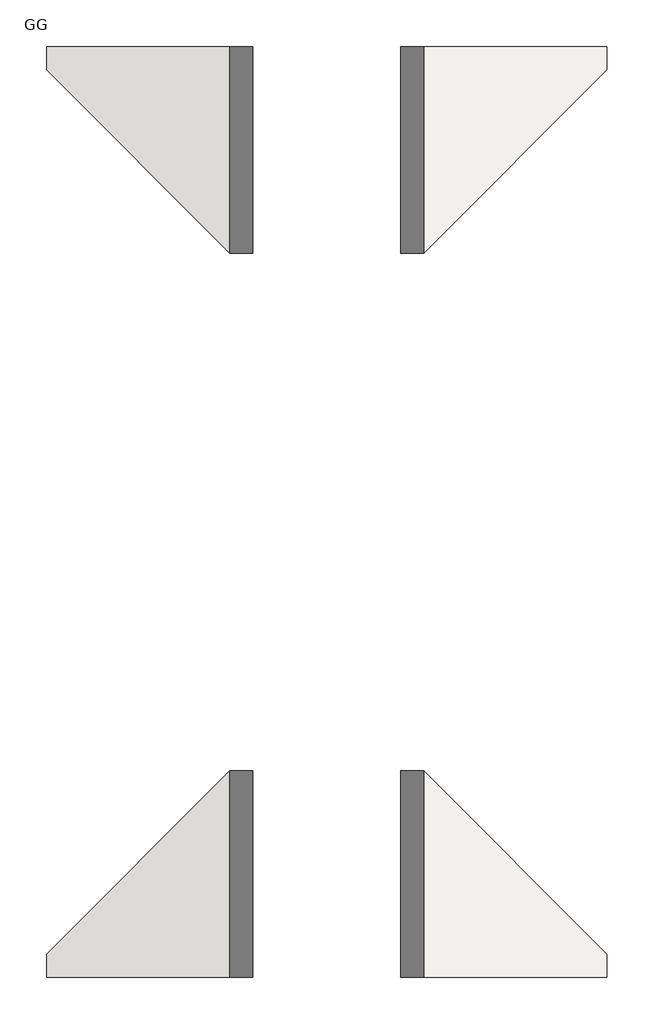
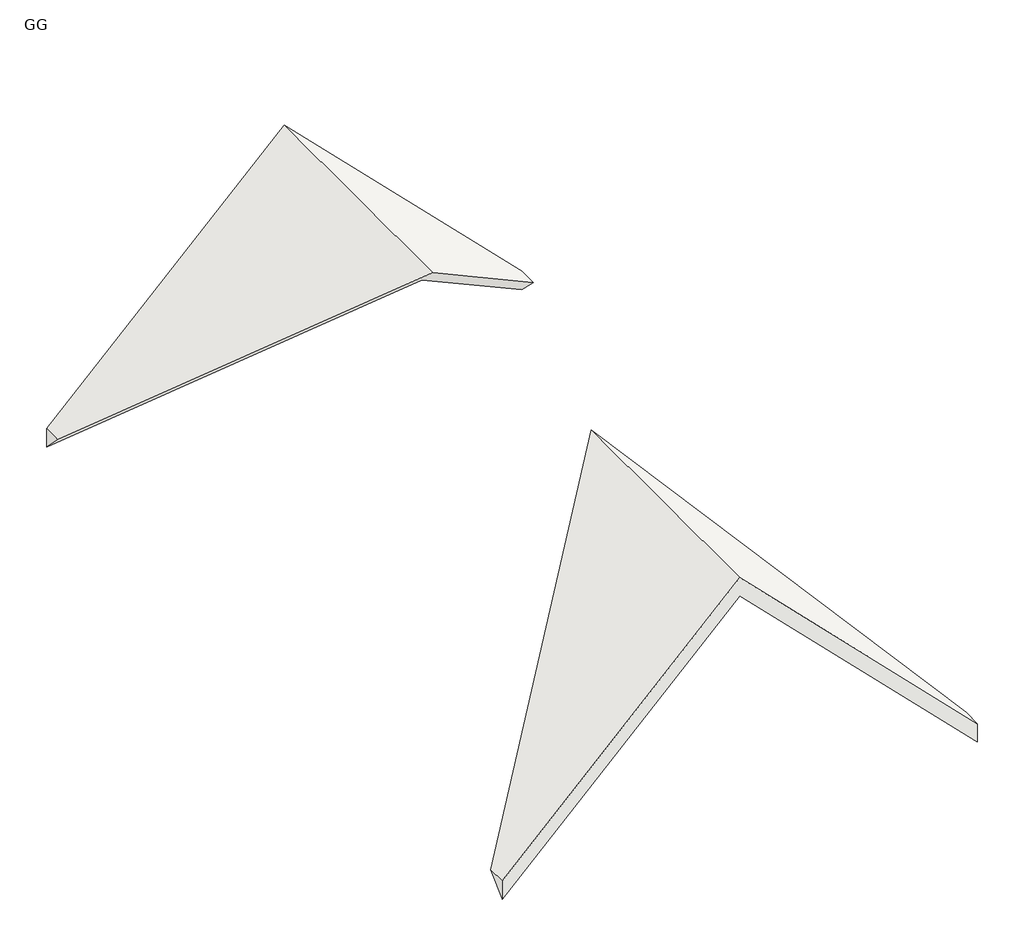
# One storey: 2 roofs.
"""IFC4 building model written with IfcOpenShell, lengths in millimetres."""

from ifc_helpers import new_model, si_unit, origin, place, context, project, spatial, faceted_brep, element, save

model = new_model("IFC4")

# Units and contexts
model_context = context("Model", 3, world=origin())
ifc_project = project(units=[si_unit("LENGTHUNIT", "METRE", prefix="MILLI")], contexts=[model_context])

# Site, building, storey
site = spatial("IfcSite", under=ifc_project)
building = spatial("IfcBuilding", under=site)
storey = spatial("IfcBuildingStorey", under=building, Name="GG", Elevation=8200.0)

# Roofs
placement = place(None, origin())
element("IfcRoof", 1, ObjectType="Ziegel Schleppgaube", at=placement, inside=storey, context=model_context, shape_type="Brep", body=[
    faceted_brep([(15993.7614381, 11845.9032699, 10180.0), (18848.4923187, 8991.1723893, 7325.2691193), (18943.7614381, 8895.9032699, 7230.0), (18943.7614381, 8891.1723893, 7230.0), (15993.7614381, 8891.1723893, 10180.0), (13043.7614381, 8891.1723893, 7230.0), (13043.7614381, 8895.9032699, 7230.0), (13139.0305574, 8991.1723893, 7325.2691193), (18943.7614381, 9136.3195755, 7470.4163056), (15993.7614381, 12086.3195755, 10420.4163056), (15993.7614381, 8891.1723893, 10420.4163056), (18943.7614381, 8891.1723893, 7470.4163056), (13043.7614381, 9136.3195755, 7470.4163056), (13043.7614381, 8891.1723893, 7470.4163056)], [[[0, 1, 2, 3, 4]], [[5, 6, 7, 0, 4]], [[8, 9, 10, 11]], [[12, 13, 10, 9]], [[5, 13, 12, 6]], [[2, 8, 11, 3]], [[11, 10, 13, 5, 4, 3]], [[12, 9, 8, 2, 1, 0, 7, 6]]]),
])
element("IfcRoof", 2, ObjectType="Ziegel Schleppgaube", at=placement, inside=storey, context=model_context, shape_type="Brep", body=[
    faceted_brep([(15993.7614381, 15736.4415086, 10180.0), (13043.7614381, 18686.4415086, 7230.0), (13043.7614381, 18691.1723893, 7230.0), (15993.7614381, 18691.1723893, 10180.0), (18943.7614381, 18691.1723893, 7230.0), (18943.7614381, 18686.4415086, 7230.0), (13043.7614381, 18446.025203, 7470.4163056), (15993.7614381, 15496.025203, 10420.4163056), (15993.7614381, 18691.1723893, 10420.4163056), (13043.7614381, 18691.1723893, 7470.4163056), (18943.7614381, 18446.025203, 7470.4163056), (18943.7614381, 18691.1723893, 7470.4163056)], [[[0, 1, 2, 3]], [[4, 5, 0, 3]], [[6, 7, 8, 9]], [[10, 11, 8, 7]], [[4, 11, 10, 5]], [[1, 6, 9, 2]], [[9, 8, 11, 4, 3, 2]], [[10, 7, 6, 1, 0, 5]]]),
])

save(model, "model.ifc")
